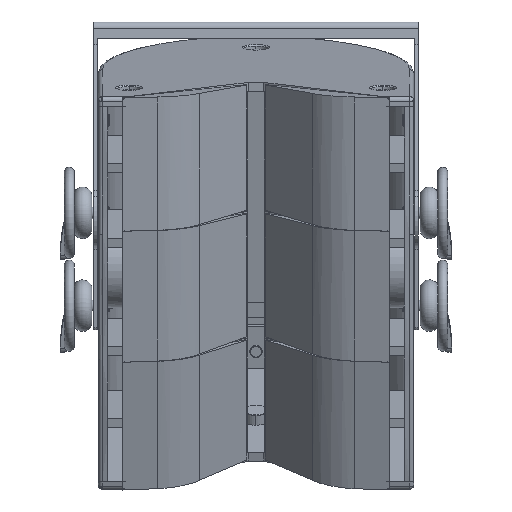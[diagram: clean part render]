
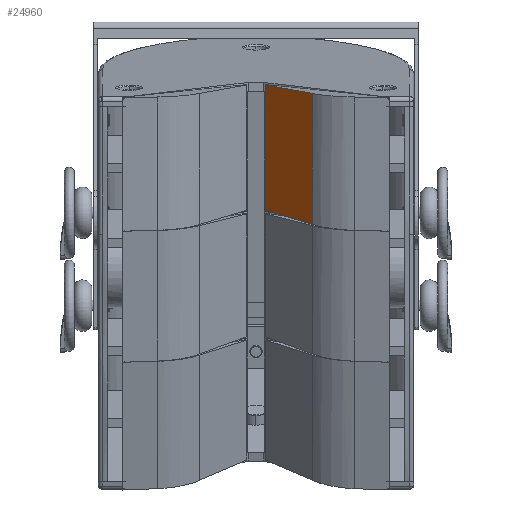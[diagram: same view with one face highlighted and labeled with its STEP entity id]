
A CAD part, top view. The second image highlights one B-rep face of the part: STEP entity #24960.
In plain terms, the highlighted planar face has unit normal (-0.707, -0.171, 0.686) as drawn and (-0.707, -0.686, -0.171) by its records, which use the part's own axes.
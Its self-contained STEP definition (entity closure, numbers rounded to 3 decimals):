
#23598 = VERTEX_POINT ( 'NONE', #37570 ) ;
#24876 = ORIENTED_EDGE ( 'NONE', *, *, #24955, .T. ) ;
#24939 = EDGE_CURVE ( 'NONE', #24954, #24949, #44077, .T. ) ;
#24947 = ORIENTED_EDGE ( 'NONE', *, *, #24939, .F. ) ;
#24948 = EDGE_CURVE ( 'NONE', #24965, #24949, #44127, .T. ) ;
#24949 = VERTEX_POINT ( 'NONE', #44122 ) ;
#24951 = ORIENTED_EDGE ( 'NONE', *, *, #24948, .T. ) ;
#24953 = ORIENTED_EDGE ( 'NONE', *, *, #24962, .T. ) ;
#24954 = VERTEX_POINT ( 'NONE', #44121 ) ;
#24955 = EDGE_CURVE ( 'NONE', #24954, #23598, #44120, .T. ) ;
#24959 = EDGE_LOOP ( 'NONE', ( #24876, #24953, #24951, #24947 ) ) ;
#24960 = ADVANCED_FACE ( 'NONE', ( #44113 ), #44107, .T. ) ;
#24962 = EDGE_CURVE ( 'NONE', #23598, #24965, #44157, .T. ) ;
#24965 = VERTEX_POINT ( 'NONE', #44153 ) ;
#37570 = CARTESIAN_POINT ( 'NONE',  ( 347.094, 36.575, 395.757 ) ) ;
#44074 = DIRECTION ( 'NONE',  ( 0., -0.242, 0.97 ) ) ;
#44075 = VECTOR ( 'NONE', #44074, 1000. ) ;
#44076 = CARTESIAN_POINT ( 'NONE',  ( 270.67, 109.599, 418.782 ) ) ;
#44077 = LINE ( 'NONE', #44076, #44075 ) ;
#44107 = PLANE ( 'NONE',  #44109 ) ;
#44108 = CARTESIAN_POINT ( 'NONE',  ( 347.094, 38.141, 389.476 ) ) ;
#44109 = AXIS2_PLACEMENT_3D ( 'NONE', #44108, #44163, #44162 ) ;
#44113 = FACE_OUTER_BOUND ( 'NONE', #24959, .T. ) ;
#44117 = DIRECTION ( 'NONE',  ( 0.706, -0.675, -0.213 ) ) ;
#44118 = VECTOR ( 'NONE', #44117, 1000. ) ;
#44119 = CARTESIAN_POINT ( 'NONE',  ( 270.67, 109.599, 418.782 ) ) ;
#44120 = LINE ( 'NONE', #44119, #44118 ) ;
#44121 = CARTESIAN_POINT ( 'NONE',  ( 270.67, 109.599, 418.782 ) ) ;
#44122 = CARTESIAN_POINT ( 'NONE',  ( 270.67, 58.877, 622.218 ) ) ;
#44123 = DIRECTION ( 'NONE',  ( -0.706, 0.696, 0.129 ) ) ;
#44124 = VECTOR ( 'NONE', #44123, 1000. ) ;
#44126 = CARTESIAN_POINT ( 'NONE',  ( 347.094, -16.409, 608.265 ) ) ;
#44127 = LINE ( 'NONE', #44126, #44124 ) ;
#44153 = CARTESIAN_POINT ( 'NONE',  ( 347.094, -16.409, 608.265 ) ) ;
#44154 = DIRECTION ( 'NONE',  ( 0., -0.242, 0.97 ) ) ;
#44155 = VECTOR ( 'NONE', #44154, 1000. ) ;
#44156 = CARTESIAN_POINT ( 'NONE',  ( 347.094, 36.575, 395.757 ) ) ;
#44157 = LINE ( 'NONE', #44156, #44155 ) ;
#44162 = DIRECTION ( 'NONE',  ( 0.696, -0.718, 0. ) ) ;
#44163 = DIRECTION ( 'NONE',  ( -0.707, -0.686, -0.171 ) ) ;
